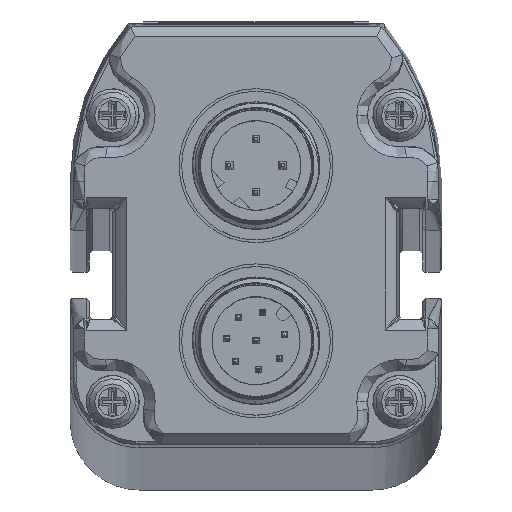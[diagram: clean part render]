
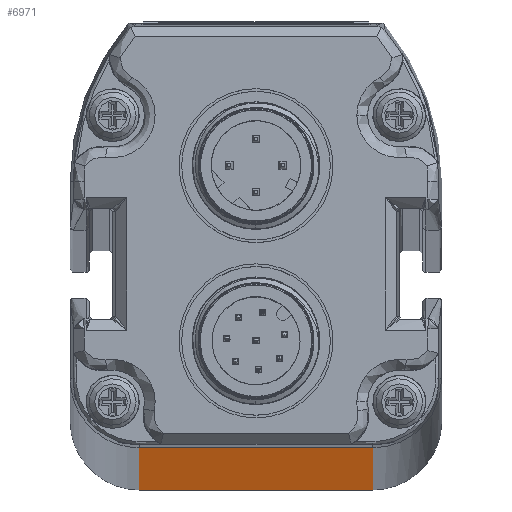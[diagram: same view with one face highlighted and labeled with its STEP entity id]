
A CAD part, top view. The second image highlights one B-rep face of the part: STEP entity #6971.
In plain terms, the highlighted planar face has unit normal (0, -1, 0).
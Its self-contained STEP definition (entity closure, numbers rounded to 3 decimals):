
#6971=ADVANCED_FACE('F5555',(#8421),#7973,.T.);
#7973=PLANE('',#23255);
#8421=FACE_OUTER_BOUND('',#9420,.T.);
#9420=EDGE_LOOP('',(#13816,#13817,#13818,#13819));
#10652=LINE('',#30525,#11554);
#10653=LINE('',#30527,#11555);
#11554=VECTOR('',#25406,1.);
#11555=VECTOR('',#25407,1.);
#12403=B_SPLINE_CURVE_WITH_KNOTS('',3,(#30520,#30521,#30522,#30523),
 .UNSPECIFIED.,.F.,.F.,(4,4),(0.,1.),.UNSPECIFIED.);
#12404=B_SPLINE_CURVE_WITH_KNOTS('',3,(#30529,#30530,#30531,#30532),
 .UNSPECIFIED.,.F.,.F.,(4,4),(0.,1.),.UNSPECIFIED.);
#13816=ORIENTED_EDGE('',*,*,#20254,.F.);
#13817=ORIENTED_EDGE('',*,*,#20253,.T.);
#13818=ORIENTED_EDGE('',*,*,#20255,.F.);
#13819=ORIENTED_EDGE('',*,*,#20256,.T.);
#18495=VERTEX_POINT('',#30512);
#18496=VERTEX_POINT('',#30519);
#18497=VERTEX_POINT('',#30526);
#18498=VERTEX_POINT('',#30528);
#20253=EDGE_CURVE('',#18495,#18496,#12403,.T.);
#20254=EDGE_CURVE('',#18495,#18497,#10652,.T.);
#20255=EDGE_CURVE('',#18498,#18496,#10653,.T.);
#20256=EDGE_CURVE('',#18498,#18497,#12404,.T.);
#23255=AXIS2_PLACEMENT_3D('',#30533,#25408,#25409);
#25406=DIRECTION('',(-1.,0.,0.));
#25407=DIRECTION('',(1.,0.,0.));
#25408=DIRECTION('',(0.,-1.,0.));
#25409=DIRECTION('',(1.,0.,0.));
#30512=CARTESIAN_POINT('',(93.013,-2.493,-2034.232));
#30519=CARTESIAN_POINT('',(93.013,-2.493,243.168));
#30520=CARTESIAN_POINT('',(93.013,-2.493,-2034.232));
#30521=CARTESIAN_POINT('',(93.013,-2.493,-1275.098));
#30522=CARTESIAN_POINT('',(93.013,-2.493,-515.965));
#30523=CARTESIAN_POINT('',(93.013,-2.493,243.168));
#30525=CARTESIAN_POINT('',(64.513,-2.493,-2034.232));
#30526=CARTESIAN_POINT('',(71.013,-2.493,-2034.232));
#30527=CARTESIAN_POINT('',(82.013,-2.493,243.168));
#30528=CARTESIAN_POINT('',(71.013,-2.493,243.168));
#30529=CARTESIAN_POINT('',(71.013,-2.493,243.168));
#30530=CARTESIAN_POINT('',(71.013,-2.493,-515.965));
#30531=CARTESIAN_POINT('',(71.013,-2.493,-1275.098));
#30532=CARTESIAN_POINT('',(71.013,-2.493,-2034.232));
#30533=CARTESIAN_POINT('',(64.513,-2.493,-1005.332));
